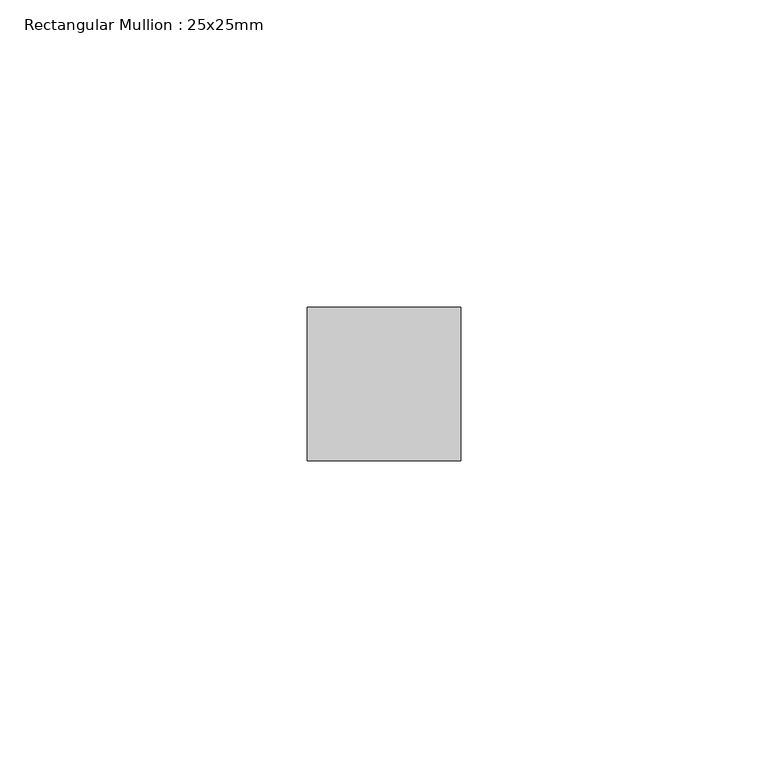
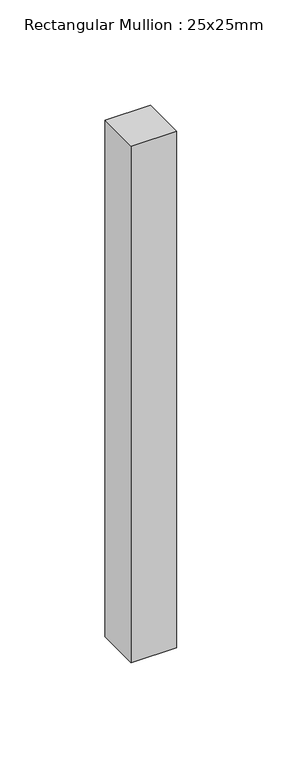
"""IFC4 building model written with IfcOpenShell, lengths in millimetres: member geometry, Rectangular Mullion : 25x25mm."""

from ifc_helpers import new_model, si_unit, frame, origin, place, context, project, spatial, polyline, outline, extrude, source, transform, mapped, element, save


def rectangular_mullion_25x25mm_9866c8c1(model_context):
    return source(origin(), model_context, "Body", "SweptSolid", [
        extrude(outline(polyline([(0.0, 0.5), (0.0, -24.5), (-25.0, -24.5), (-25.0, 0.5), (0.0, 0.5)])), frame((0.0, 0.0, -300.0), z_axis=(0.0, 0.0, 1.0), x_axis=(1.0, 0.0, 0.0)), (0.0, 0.0, 1.0), 300.0),
    ])


if __name__ == "__main__":
    model = new_model("IFC4")
    model_context = context("Model", 3, world=origin())
    ifc_project = project(units=[si_unit("LENGTHUNIT", "METRE", prefix="MILLI")], contexts=[model_context])
    site = spatial("IfcSite", under=ifc_project)
    building = spatial("IfcBuilding", under=site)
    placement = place(None, origin())
    rectangular_mullion_25x25mm_shape = rectangular_mullion_25x25mm_9866c8c1(model_context)
    element("IfcMember", 1, ObjectType="Rectangular Mullion : 25x25mm", at=placement, inside=building, context=model_context, shape_type="MappedRepresentation", body=[
        mapped(rectangular_mullion_25x25mm_shape, transform((0.0, 0.0, 0.0), x_axis=(1.0, 0.0, 0.0), y_axis=(0.0, 1.0, 0.0), z_axis=(0.0, 0.0, 1.0))),
    ])
    save(model, "model.ifc")
